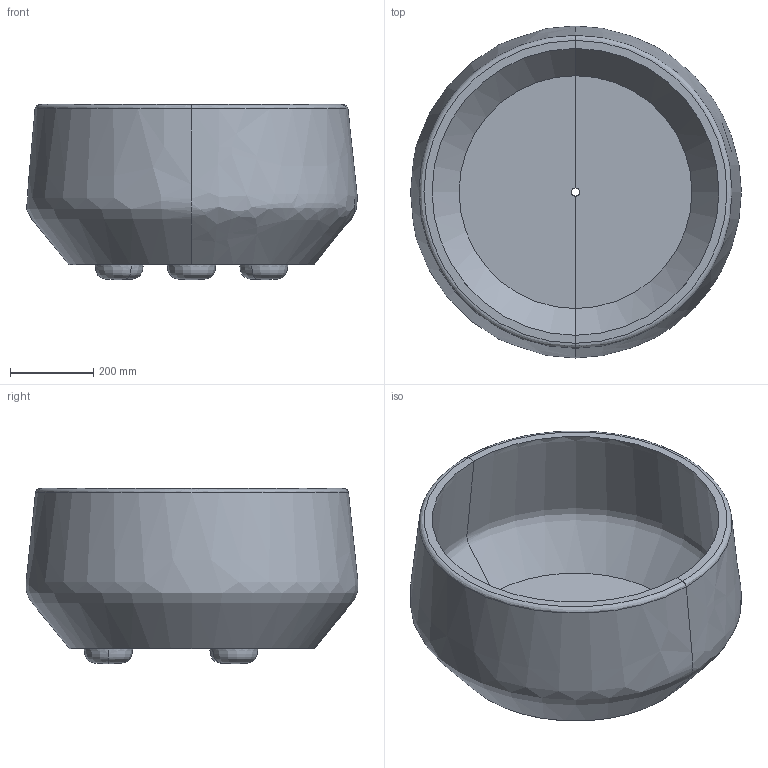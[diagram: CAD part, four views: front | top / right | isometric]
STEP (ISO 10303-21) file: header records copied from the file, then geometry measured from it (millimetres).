
FILE_DESCRIPTION(/* description */ (''),/* implementation_level */ '2;1');
FILE_NAME(/* name */ '80',/* time_stamp */ '2026-04-30T09:08:03+02:00',/* author */ (''),/* organization */ (''),/* preprocessor_version */ 'ST-DEVELOPER v19.2',/* originating_system */ 'Rhino 8.30',/* authorisation */ '');
FILE_SCHEMA (('CONFIG_CONTROL_DESIGN'));
Length unit declared in the file: millimetre
Products named in the file (1): Document
Bounding box: 796.71 x 799.57 x 421.99 mm (x, y, z)
Volume: 35390784.3 mm3; surface area: 2442666.9 mm2
Topology: 1 solids, 1 shells, 21 faces, 50 edges, 27 vertices
Faces by surface type: bspline 14, plane 5, cylinder 2
Entity records: 1151 total; most frequent: CARTESIAN_POINT 661, ORIENTED_EDGE 88, DIRECTION 67, EDGE_CURVE 44, AXIS2_PLACEMENT_3D 37, TRIMMED_CURVE 28, CIRCLE 28, VERTEX_POINT 27
